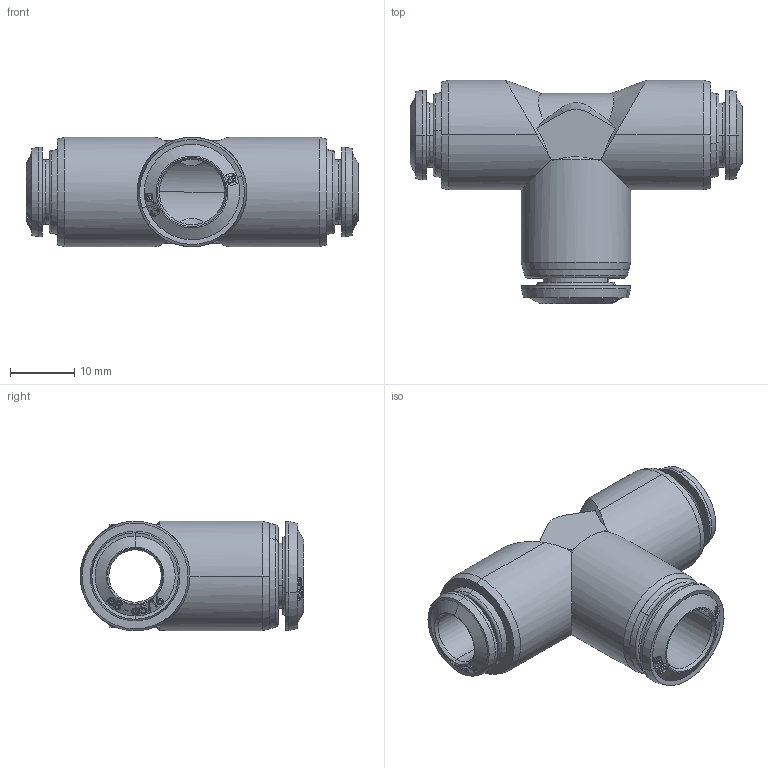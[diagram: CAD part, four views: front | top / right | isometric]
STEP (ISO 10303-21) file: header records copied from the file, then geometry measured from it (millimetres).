
FILE_DESCRIPTION (( 'STEP AP214' ), '1' );
FILE_NAME ('5523000015A.STEP', '2016-05-12T07:28:42', ( '' ), ( '' ), 'SwSTEP 2.0', 'SolidWorks 2016', '' );
FILE_SCHEMA (( 'AUTOMOTIVE_DESIGN' ));
Length unit declared in the file: millimetre
Products named in the file (1): 5523000015A
Bounding box: 51.8 x 34.85 x 17.1 mm (x, y, z)
Surface area: 5096.1 mm2 (no closed solid volume)
Topology: 0 solids, 7 shells, 380 faces, 1052 edges, 693 vertices
Faces by surface type: bspline 231, cone 86, plane 27, cylinder 24, torus 12
Entity records: 30195 total; most frequent: CARTESIAN_POINT 18593, ORIENTED_EDGE 1994, EDGE_CURVE 1052, B_SPLINE_CURVE_WITH_KNOTS 812, VERTEX_POINT 693, DIRECTION 644, EDGE_LOOP 422, UNCERTAINTY_MEASURE_WITH_UNIT 382
